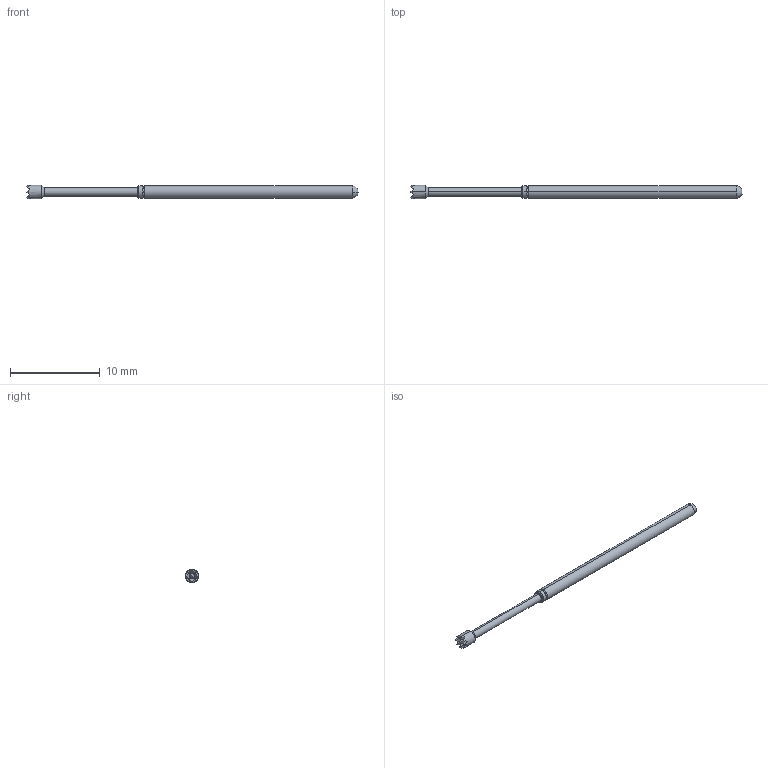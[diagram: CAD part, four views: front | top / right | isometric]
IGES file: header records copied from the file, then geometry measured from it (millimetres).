
Start section: SolidWorks IGES file using analytic representation for surfaces
Global section: file name: Z:\probe solid model mockups\Solidworks models\LTP-25\LTP-25H.IGS; native system: SolidWorks 2006 by SolidWorks Corporation; preprocessor: SolidWorks 2006 by SolidWorks Corporation; author: tsakatani; date: 071214.143020; units: inch
Bounding box: 37.08 x 1.52 x 1.52 mm (x, y, z)
Surface area: 149.1 mm2 (no closed solid volume)
Topology: 0 solids, 0 shells, 50 faces, 248 edges, 248 vertices
Faces by surface type: bspline 34, revolution 16
